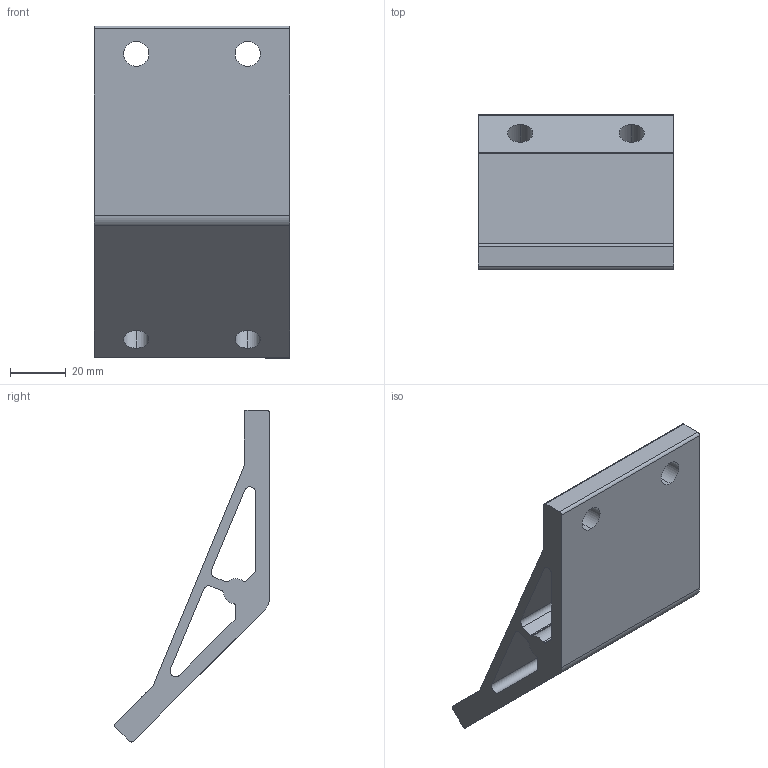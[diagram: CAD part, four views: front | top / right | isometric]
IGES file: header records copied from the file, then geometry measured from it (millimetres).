
Start section: SolidWorks IGES file using analytic representation for surfaces
Global section: file name: C:\Documents and Settings\Administrator\デスクトップ\指定保存後4回目\SolidWorks\SF\SF40・45\Bracket\ハードブラケットL4080・DE\SFJ-N42.IGS; native system: SolidWorks 2006 by SolidWorks Corporation; preprocessor: SolidWorks 2006 by SolidWorks Corporation; author: Administrator; date: 061218.093231; units: millimetre
Bounding box: 70 x 55.44 x 119.08 mm (x, y, z)
Volume: 89827.3 mm3; surface area: 34723.3 mm2
Topology: 1 solids, 1 shells, 48 faces, 138 edges, 92 vertices
Faces by surface type: revolution 31, plane 17
